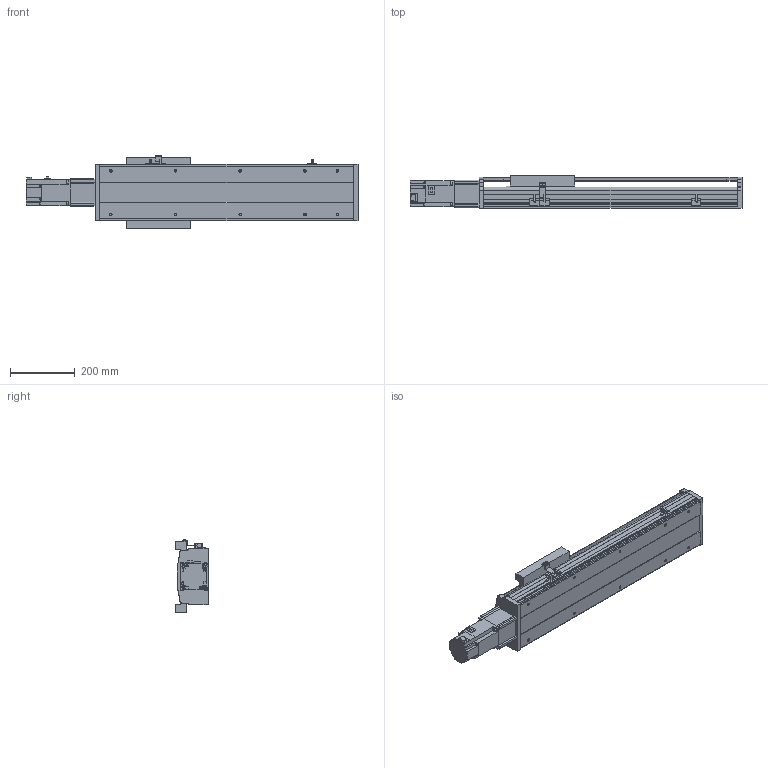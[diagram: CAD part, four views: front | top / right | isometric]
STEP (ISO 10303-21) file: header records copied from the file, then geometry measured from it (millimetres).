
FILE_DESCRIPTION( ( 'STEP AP214' ), '1' );
FILE_NAME( 'x:/temp/worker_27/temp/exporttempdir_6708_406_OHdMK/format_0/PSS200-L10-S450-BC-T75-C1-N(0).stp', '2022-06-06T02:33:59', ( 'License CC BY-ND 4.0' ), ( 'CADENAS' ), ' ', 'PARTsolutions', ' ' );
FILE_SCHEMA( ( 'AUTOMOTIVE_DESIGN { 1 0 10303 214 1 1 1 1 }' ) );
Length unit declared in the file: millimetre
Products named in the file (8): PSS200-L10-S450-BC-T75-C1-N(0); _PSS200-S450-BC-C1-N_body; _PSS200-N_Q; _PSS200-BC-C1-N_sl; _PSS200-N_sensor; _PSS200BC-N_h; _T75-p1; _PSS200-S450-BC-N_S
Assembly tree (9 placements, depth 2):
  PSS200-L10-S450-BC-T75-C1-N(0)
    _PSS200-S450-BC-C1-N_body
    _PSS200-N_Q
    _PSS200-BC-C1-N_sl
    _PSS200-N_sensor  x3
    _PSS200BC-N_h
    _T75-p1
    _PSS200-S450-BC-N_S
Bounding box: 1026.3 x 101.5 x 223.86 mm (x, y, z)
Volume: 6148630.3 mm3; surface area: 1447777.5 mm2
Topology: 9 solids, 9 shells, 573 faces, 1531 edges, 1016 vertices
Faces by surface type: plane 439, cylinder 116, cone 18
Full cylindrical faces by diameter (mm): 4 x2, 4.5 x4, 6 x11, 6.647 x14, 8 x8, 10 x6, 25 x1, 67 x1, 70 x1
Entity records: 20091 total; most frequent: CARTESIAN_POINT 2808, DIRECTION 2621, ORIENTED_EDGE 2618, EDGE_CURVE 1309, LINE 1051, VECTOR 1051, VERTEX_POINT 908, AXIS2_PLACEMENT_3D 785
